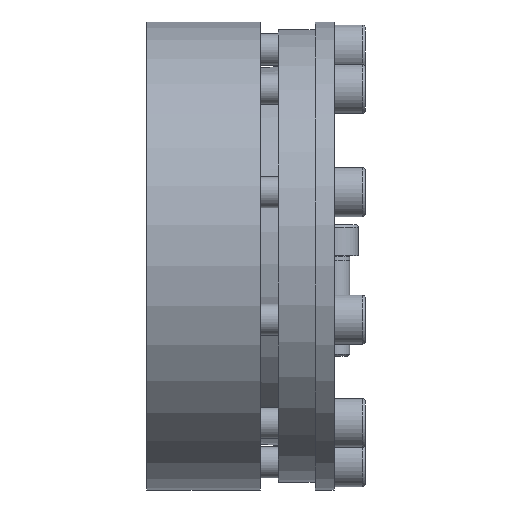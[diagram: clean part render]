
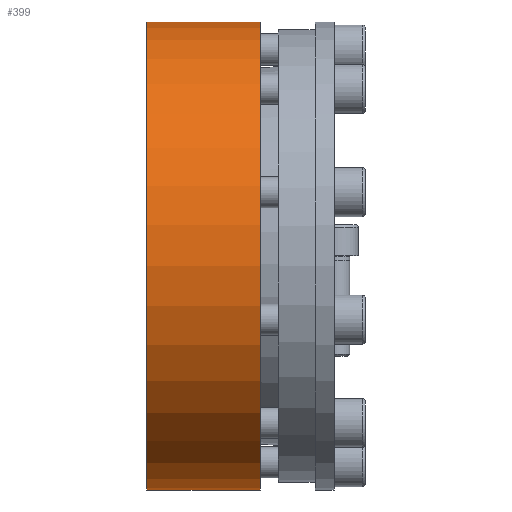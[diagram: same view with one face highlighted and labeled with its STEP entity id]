
A CAD part, left-side view. The second image highlights one B-rep face of the part: STEP entity #399.
In plain terms, the highlighted cylindrical face has radius 105 mm (diameter 210 mm), a partial arc.
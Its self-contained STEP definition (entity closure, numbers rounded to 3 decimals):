
#399 = ADVANCED_FACE( '', ( #639 ), #640, .T. );
#639 = FACE_OUTER_BOUND( '', #827, .T. );
#640 = CYLINDRICAL_SURFACE( '', #828, 105. );
#827 = EDGE_LOOP( '', ( #1097, #1098, #1099, #1100 ) );
#828 = AXIS2_PLACEMENT_3D( '', #1101, #1102, #1103 );
#1097 = ORIENTED_EDGE( '', *, *, #1442, .F. );
#1098 = ORIENTED_EDGE( '', *, *, #1449, .T. );
#1099 = ORIENTED_EDGE( '', *, *, #1454, .T. );
#1100 = ORIENTED_EDGE( '', *, *, #1414, .T. );
#1101 = CARTESIAN_POINT( '', ( 0., -60., 0. ) );
#1102 = DIRECTION( '', ( 0., 1., 0. ) );
#1103 = DIRECTION( '', ( 0., 0., -1. ) );
#1414 = EDGE_CURVE( '', #1567, #1565, #1568, .T. );
#1442 = EDGE_CURVE( '', #1618, #1565, #1620, .T. );
#1449 = EDGE_CURVE( '', #1618, #1631, #1633, .F. );
#1454 = EDGE_CURVE( '', #1631, #1567, #1641, .T. );
#1565 = VERTEX_POINT( '', #1719 );
#1567 = VERTEX_POINT( '', #1722 );
#1568 = LINE( '', #1723, #1724 );
#1618 = VERTEX_POINT( '', #1780 );
#1620 = CIRCLE( '', #1783, 105. );
#1631 = VERTEX_POINT( '', #1798 );
#1633 = LINE( '', #1801, #1802 );
#1641 = CIRCLE( '', #1813, 105. );
#1719 = CARTESIAN_POINT( '', ( 34.438, 33., 99.192 ) );
#1722 = CARTESIAN_POINT( '', ( 34.438, 84., 99.192 ) );
#1723 = CARTESIAN_POINT( '', ( 34.438, -60., 99.192 ) );
#1724 = VECTOR( '', #1871, 1000. );
#1780 = CARTESIAN_POINT( '', ( 30.443, 33., 100.49 ) );
#1783 = AXIS2_PLACEMENT_3D( '', #1942, #1943, #1944 );
#1798 = CARTESIAN_POINT( '', ( 30.443, 84., 100.49 ) );
#1801 = CARTESIAN_POINT( '', ( 30.443, -60., 100.49 ) );
#1802 = VECTOR( '', #1956, 1000. );
#1813 = AXIS2_PLACEMENT_3D( '', #1963, #1964, #1965 );
#1871 = DIRECTION( '', ( 0., -1., 0. ) );
#1942 = CARTESIAN_POINT( '', ( 0., 33., 0. ) );
#1943 = DIRECTION( '', ( 0., -1., 0. ) );
#1944 = DIRECTION( '', ( 0., 0., -1. ) );
#1956 = DIRECTION( '', ( 0., -1., 0. ) );
#1963 = CARTESIAN_POINT( '', ( 0., 84., 0. ) );
#1964 = DIRECTION( '', ( 0., -1., 0. ) );
#1965 = DIRECTION( '', ( 0., 0., -1. ) );
